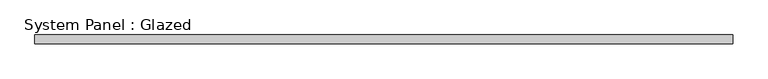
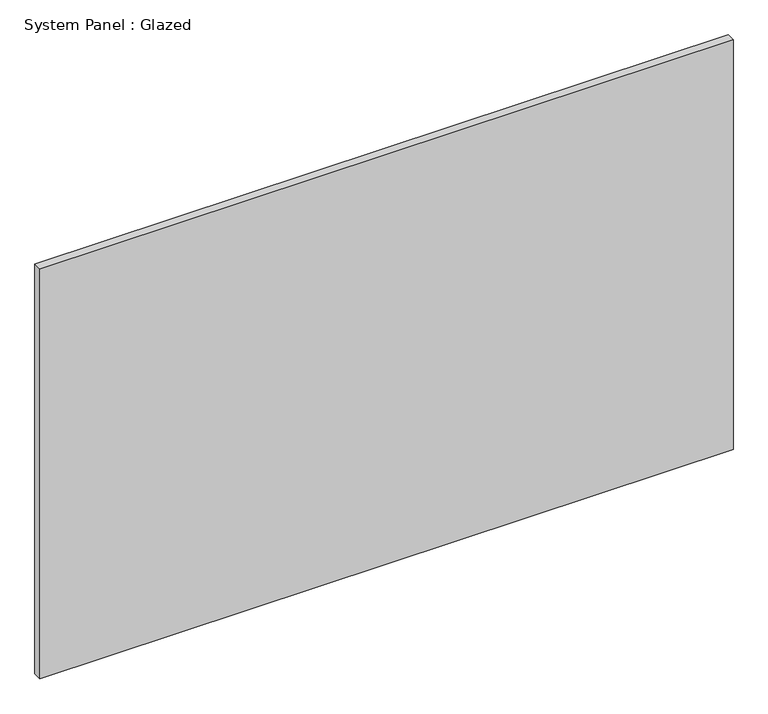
"""IFC4 building model written with IfcOpenShell, lengths in millimetres: plate geometry, System Panel : Glazed."""

from ifc_helpers import new_model, si_unit, origin, origin_with_axes, place, context, project, spatial, polyline, outline, extrude, source, transform, mapped, element, save


def system_panel_glazed_fd5f2acc(model_context):
    return source(origin(), model_context, "Body", "SweptSolid", [
        extrude(outline(polyline([(1000.0, 24.5), (-1000.0, 24.5), (-1000.0, 49.5), (1000.0, 49.5), (1000.0, 24.5)])), origin_with_axes(), (0.0, 0.0, 1.0), 1250.0),
    ])


if __name__ == "__main__":
    model = new_model("IFC4")
    model_context = context("Model", 3, world=origin())
    ifc_project = project(units=[si_unit("LENGTHUNIT", "METRE", prefix="MILLI")], contexts=[model_context])
    site = spatial("IfcSite", under=ifc_project)
    building = spatial("IfcBuilding", under=site)
    placement = place(None, origin())
    system_panel_glazed_shape = system_panel_glazed_fd5f2acc(model_context)
    element("IfcPlate", 1, ObjectType="System Panel : Glazed", at=placement, inside=building, context=model_context, shape_type="MappedRepresentation", body=[
        mapped(system_panel_glazed_shape, transform((0.0, 0.0, 0.0), x_axis=(1.0, 0.0, 0.0), y_axis=(0.0, 1.0, 0.0), z_axis=(0.0, 0.0, 1.0))),
    ])
    save(model, "model.ifc")
